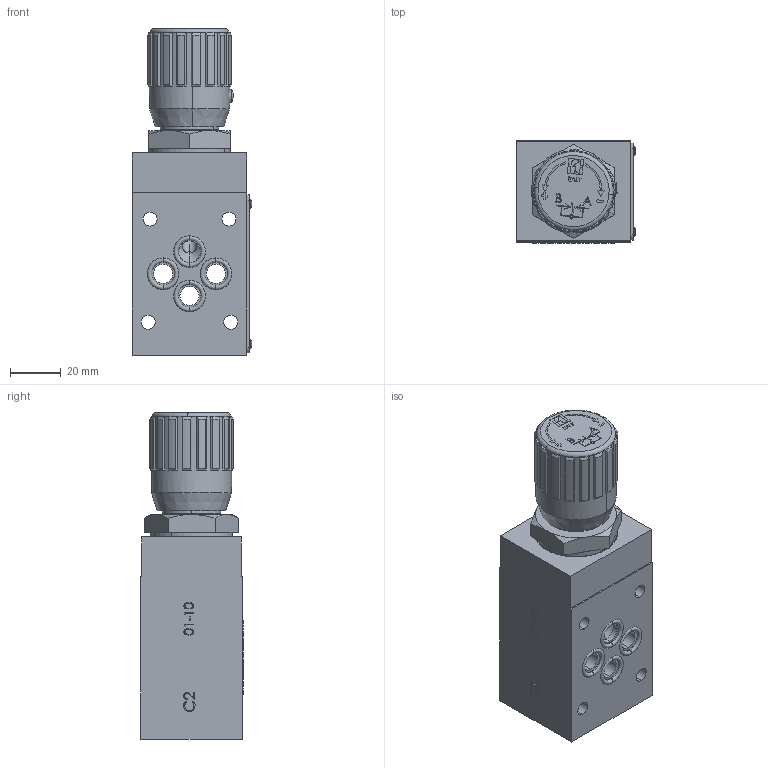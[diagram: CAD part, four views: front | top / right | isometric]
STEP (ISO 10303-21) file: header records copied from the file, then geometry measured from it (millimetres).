
FILE_DESCRIPTION (( 'STEP AP214' ), '1' );
FILE_NAME ('FT357-5-A-03.STEP', '2014-06-17T05:09:54', ( '' ), ( '' ), 'SwSTEP 2.0', 'SolidWorks 2014', '' );
FILE_SCHEMA (( 'AUTOMOTIVE_DESIGN' ));
Length unit declared in the file: millimetre
Products named in the file (21): 357-5-A001000; DiscoFascetta257_5-38; GranoFT257_5-38; FT357-5-A-03; VolantinoFT257-5_38_Tipo38; CappuccioFT257-5_38_Tipo38; OR2037; OR2068; OR132; AnelloFermoFT1251_2-01-12; 257-6-009000-38; 267-5-002001-38; 267-5-008001-38; 267-5-017000-38; 267-5-018000-38; OR2018; BK2018; ViteM3_Semplice; 357-5-AB101000; RivettoTarga; 357-5-A015000
Assembly tree (26 placements, depth 2):
  FT357-5-A-03
    357-5-A001000
    357-5-A015000
    RivettoTarga  x4
    357-5-AB101000
    ViteM3_Semplice
    BK2018
    OR2018
    267-5-018000-38
    267-5-017000-38
    267-5-008001-38
    267-5-002001-38
    257-6-009000-38
    AnelloFermoFT1251_2-01-12
    OR132
    OR2068
    OR2037  x4
    CappuccioFT257-5_38_Tipo38
    VolantinoFT257-5_38_Tipo38
    GranoFT257_5-38
    DiscoFascetta257_5-38
Bounding box: 46.96 x 40.38 x 128.3 mm (x, y, z)
Volume: 161339.8 mm3; surface area: 60967.2 mm2
Topology: 26 solids, 26 shells, 2157 faces, 5487 edges, 3566 vertices
Faces by surface type: plane 1218, bspline 377, cylinder 311, cone 191, torus 58, sphere 2
Entity records: 102901 total; most frequent: CARTESIAN_POINT 38197, ORIENTED_EDGE 10750, DIRECTION 8748, EDGE_CURVE 5375, LINE 3598, VECTOR 3598, VERTEX_POINT 3512, AXIS2_PLACEMENT_3D 2575
